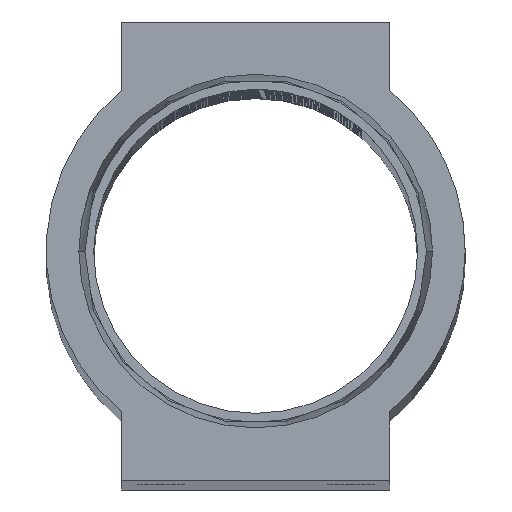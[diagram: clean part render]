
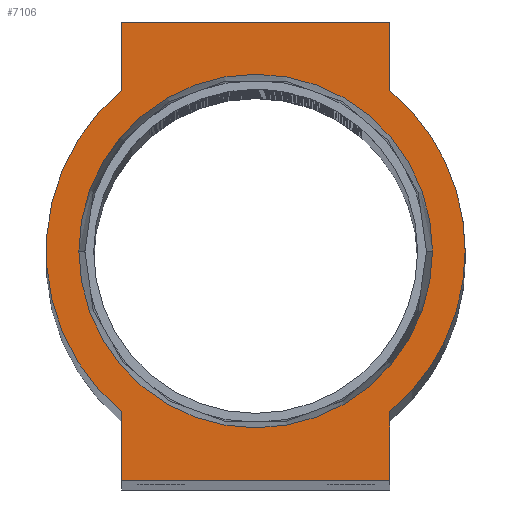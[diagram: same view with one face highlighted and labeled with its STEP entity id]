
A CAD part, top view. The second image highlights one B-rep face of the part: STEP entity #7106.
In plain terms, the highlighted planar face has unit normal (0, 0, 1).
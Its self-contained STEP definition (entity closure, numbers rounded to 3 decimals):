
#11 = VERTEX_POINT ( 'NONE', #13695 ) ;
#103 = EDGE_CURVE ( 'NONE', #3070, #5538, #11199, .T. ) ;
#305 = ORIENTED_EDGE ( 'NONE', *, *, #7925, .F. ) ;
#525 = FACE_OUTER_BOUND ( 'NONE', #1423, .T. ) ;
#692 = CARTESIAN_POINT ( 'NONE',  ( 12., -20.5, 0. ) ) ;
#748 = CIRCLE ( 'NONE', #10833, 15.827 ) ;
#788 = DIRECTION ( 'NONE',  ( 1., 0., 0. ) ) ;
#908 = EDGE_CURVE ( 'NONE', #1567, #7930, #4767, .T. ) ;
#1121 = CARTESIAN_POINT ( 'NONE',  ( 0., 0., 0. ) ) ;
#1179 = CIRCLE ( 'NONE', #10813, 18.75 ) ;
#1327 = EDGE_CURVE ( 'NONE', #7930, #3070, #3331, .T. ) ;
#1351 = EDGE_LOOP ( 'NONE', ( #1607, #305 ) ) ;
#1423 = EDGE_LOOP ( 'NONE', ( #11794, #13399, #8066, #12571, #8237, #3335, #7817, #2700, #3791 ) ) ;
#1483 = DIRECTION ( 'NONE',  ( 0., 0., 1. ) ) ;
#1501 = CARTESIAN_POINT ( 'NONE',  ( -12., -20.5, 0. ) ) ;
#1512 = DIRECTION ( 'NONE',  ( 1., 0., 0. ) ) ;
#1567 = VERTEX_POINT ( 'NONE', #6713 ) ;
#1607 = ORIENTED_EDGE ( 'NONE', *, *, #13850, .F. ) ;
#1850 = LINE ( 'NONE', #692, #4754 ) ;
#2043 = EDGE_CURVE ( 'NONE', #10836, #11, #7898, .T. ) ;
#2191 = VECTOR ( 'NONE', #13514, 1000. ) ;
#2291 = CARTESIAN_POINT ( 'NONE',  ( 0., 0., 0. ) ) ;
#2300 = VERTEX_POINT ( 'NONE', #7770 ) ;
#2382 = DIRECTION ( 'NONE',  ( 0., 0., 1. ) ) ;
#2437 = DIRECTION ( 'NONE',  ( 1., 0., 0. ) ) ;
#2580 = AXIS2_PLACEMENT_3D ( 'NONE', #10155, #13667, #2638 ) ;
#2638 = DIRECTION ( 'NONE',  ( 1., 0., 0. ) ) ;
#2700 = ORIENTED_EDGE ( 'NONE', *, *, #7323, .T. ) ;
#2879 = LINE ( 'NONE', #7177, #7240 ) ;
#2961 = DIRECTION ( 'NONE',  ( 0., 1., 0. ) ) ;
#3070 = VERTEX_POINT ( 'NONE', #8920 ) ;
#3140 = CARTESIAN_POINT ( 'NONE',  ( 15.827, 0., 0. ) ) ;
#3279 = DIRECTION ( 'NONE',  ( -1., 0., 0. ) ) ;
#3331 = CIRCLE ( 'NONE', #12266, 18.75 ) ;
#3335 = ORIENTED_EDGE ( 'NONE', *, *, #3428, .T. ) ;
#3378 = DIRECTION ( 'NONE',  ( 1., 0., 0. ) ) ;
#3423 = DIRECTION ( 'NONE',  ( 1., 0., 0. ) ) ;
#3428 = EDGE_CURVE ( 'NONE', #5538, #2300, #2879, .T. ) ;
#3514 = DIRECTION ( 'NONE',  ( 0., -1., 0. ) ) ;
#3791 = ORIENTED_EDGE ( 'NONE', *, *, #2043, .T. ) ;
#4031 = CARTESIAN_POINT ( 'NONE',  ( 12., -14.407, 0. ) ) ;
#4168 = VECTOR ( 'NONE', #3279, 1000. ) ;
#4754 = VECTOR ( 'NONE', #5083, 1000. ) ;
#4767 = LINE ( 'NONE', #9150, #2191 ) ;
#4887 = CARTESIAN_POINT ( 'NONE',  ( -12., 14.407, 0. ) ) ;
#4922 = EDGE_CURVE ( 'NONE', #2300, #6868, #1850, .T. ) ;
#5083 = DIRECTION ( 'NONE',  ( 0., 1., 0. ) ) ;
#5115 = CARTESIAN_POINT ( 'NONE',  ( 12., 20.5, 0. ) ) ;
#5538 = VERTEX_POINT ( 'NONE', #8038 ) ;
#5845 = AXIS2_PLACEMENT_3D ( 'NONE', #13196, #2382, #3378 ) ;
#6244 = CARTESIAN_POINT ( 'NONE',  ( 12., 20.5, 0. ) ) ;
#6581 = DIRECTION ( 'NONE',  ( 0., 0., 1. ) ) ;
#6713 = CARTESIAN_POINT ( 'NONE',  ( -12., 20.5, 0. ) ) ;
#6868 = VERTEX_POINT ( 'NONE', #4031 ) ;
#6940 = DIRECTION ( 'NONE',  ( 0., 0., 1. ) ) ;
#7106 = ADVANCED_FACE ( 'NONE', ( #11242, #525 ), #8081, .T. ) ;
#7177 = CARTESIAN_POINT ( 'NONE',  ( -12., -20.5, 0. ) ) ;
#7240 = VECTOR ( 'NONE', #1512, 1000. ) ;
#7256 = CARTESIAN_POINT ( 'NONE',  ( 0., 0., 0. ) ) ;
#7323 = EDGE_CURVE ( 'NONE', #6868, #10836, #1179, .T. ) ;
#7511 = CARTESIAN_POINT ( 'NONE',  ( -12., 20.5, 0. ) ) ;
#7579 = AXIS2_PLACEMENT_3D ( 'NONE', #1121, #6581, #3423 ) ;
#7770 = CARTESIAN_POINT ( 'NONE',  ( 12., -20.5, 0. ) ) ;
#7817 = ORIENTED_EDGE ( 'NONE', *, *, #4922, .T. ) ;
#7898 = CIRCLE ( 'NONE', #5845, 18.75 ) ;
#7925 = EDGE_CURVE ( 'NONE', #14006, #13908, #748, .T. ) ;
#7930 = VERTEX_POINT ( 'NONE', #4887 ) ;
#8038 = CARTESIAN_POINT ( 'NONE',  ( -12., -20.5, 0. ) ) ;
#8066 = ORIENTED_EDGE ( 'NONE', *, *, #908, .T. ) ;
#8081 = PLANE ( 'NONE',  #2580 ) ;
#8237 = ORIENTED_EDGE ( 'NONE', *, *, #103, .T. ) ;
#8571 = VECTOR ( 'NONE', #2961, 1000. ) ;
#8579 = EDGE_CURVE ( 'NONE', #11, #14156, #13710, .T. ) ;
#8589 = CARTESIAN_POINT ( 'NONE',  ( 18.75, 0., 0. ) ) ;
#8920 = CARTESIAN_POINT ( 'NONE',  ( -12., -14.407, 0. ) ) ;
#8943 = CARTESIAN_POINT ( 'NONE',  ( -15.827, 0., 0. ) ) ;
#8946 = CIRCLE ( 'NONE', #7579, 15.827 ) ;
#9014 = DIRECTION ( 'NONE',  ( 1., 0., 0. ) ) ;
#9150 = CARTESIAN_POINT ( 'NONE',  ( -12., 20.5, 0. ) ) ;
#10155 = CARTESIAN_POINT ( 'NONE',  ( 0., 0., 0. ) ) ;
#10237 = CARTESIAN_POINT ( 'NONE',  ( 0., 0., 0. ) ) ;
#10340 = DIRECTION ( 'NONE',  ( 0., 0., 1. ) ) ;
#10813 = AXIS2_PLACEMENT_3D ( 'NONE', #2291, #6940, #9014 ) ;
#10833 = AXIS2_PLACEMENT_3D ( 'NONE', #7256, #10340, #788 ) ;
#10836 = VERTEX_POINT ( 'NONE', #8589 ) ;
#11199 = LINE ( 'NONE', #1501, #12709 ) ;
#11242 = FACE_BOUND ( 'NONE', #1351, .T. ) ;
#11794 = ORIENTED_EDGE ( 'NONE', *, *, #8579, .T. ) ;
#11900 = LINE ( 'NONE', #7511, #4168 ) ;
#12266 = AXIS2_PLACEMENT_3D ( 'NONE', #10237, #1483, #2437 ) ;
#12571 = ORIENTED_EDGE ( 'NONE', *, *, #1327, .T. ) ;
#12709 = VECTOR ( 'NONE', #3514, 1000. ) ;
#13196 = CARTESIAN_POINT ( 'NONE',  ( 0., 0., 0. ) ) ;
#13399 = ORIENTED_EDGE ( 'NONE', *, *, #13679, .T. ) ;
#13514 = DIRECTION ( 'NONE',  ( 0., -1., 0. ) ) ;
#13667 = DIRECTION ( 'NONE',  ( 0., 0., 1. ) ) ;
#13679 = EDGE_CURVE ( 'NONE', #14156, #1567, #11900, .T. ) ;
#13695 = CARTESIAN_POINT ( 'NONE',  ( 12., 14.407, 0. ) ) ;
#13710 = LINE ( 'NONE', #6244, #8571 ) ;
#13850 = EDGE_CURVE ( 'NONE', #13908, #14006, #8946, .T. ) ;
#13908 = VERTEX_POINT ( 'NONE', #3140 ) ;
#14006 = VERTEX_POINT ( 'NONE', #8943 ) ;
#14156 = VERTEX_POINT ( 'NONE', #5115 ) ;
